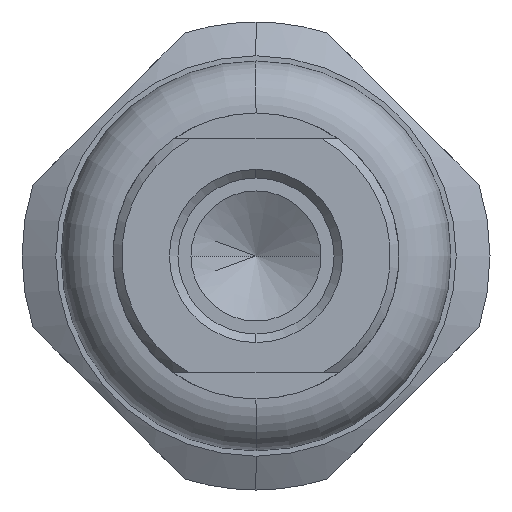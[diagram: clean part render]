
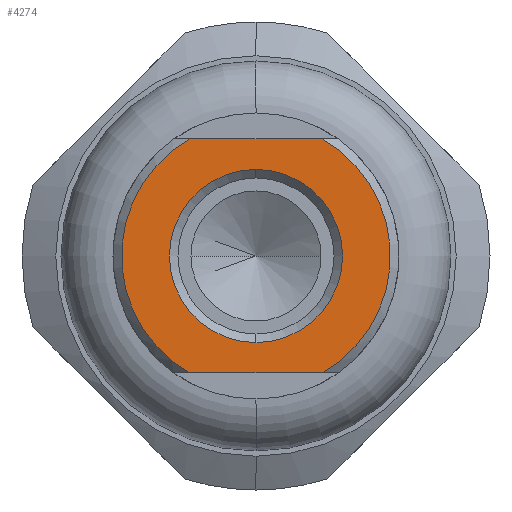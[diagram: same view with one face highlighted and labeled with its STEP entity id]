
A CAD part, left-side view. The second image highlights one B-rep face of the part: STEP entity #4274.
In plain terms, the highlighted planar face has unit normal (-1, 0, 0).
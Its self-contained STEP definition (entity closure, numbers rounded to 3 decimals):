
#1385 = CARTESIAN_POINT ( 'NONE',  ( -16.5, -2.545, -4.5 ) ) ;
#1525 = VERTEX_POINT ( 'NONE', #1385 ) ;
#2091 = CARTESIAN_POINT ( 'NONE',  ( -16.5, -2.545, 4.5 ) ) ;
#2144 = PLANE ( 'NONE',  #2147 ) ;
#2147 = AXIS2_PLACEMENT_3D ( 'NONE', #2270, #2269, #2267 ) ;
#2148 = FACE_OUTER_BOUND ( 'NONE', #4276, .T. ) ;
#2149 = FACE_BOUND ( 'NONE', #4275, .T. ) ;
#2164 = CARTESIAN_POINT ( 'NONE',  ( -16.5, 2.545, 4.5 ) ) ;
#2165 = DIRECTION ( 'NONE',  ( 0., -1., 0. ) ) ;
#2166 = VECTOR ( 'NONE', #2165, 1000. ) ;
#2167 = CARTESIAN_POINT ( 'NONE',  ( -16.5, -5.5, -4.5 ) ) ;
#2168 = LINE ( 'NONE', #2167, #2166 ) ;
#2174 = DIRECTION ( 'NONE',  ( 0., 1., 0. ) ) ;
#2175 = VECTOR ( 'NONE', #2174, 1000. ) ;
#2177 = CARTESIAN_POINT ( 'NONE',  ( -16.5, -5.5, 4.5 ) ) ;
#2178 = LINE ( 'NONE', #2177, #2175 ) ;
#2183 = CARTESIAN_POINT ( 'NONE',  ( -16.5, 2.545, -4.5 ) ) ;
#2185 = DIRECTION ( 'NONE',  ( 0., 0., 1. ) ) ;
#2187 = DIRECTION ( 'NONE',  ( -1., 0., 0. ) ) ;
#2189 = CARTESIAN_POINT ( 'NONE',  ( -16.5, 0., 0. ) ) ;
#2191 = AXIS2_PLACEMENT_3D ( 'NONE', #2189, #2187, #2185 ) ;
#2192 = CIRCLE ( 'NONE', #2191, 5.17 ) ;
#2241 = DIRECTION ( 'NONE',  ( 0., 0., 1. ) ) ;
#2242 = DIRECTION ( 'NONE',  ( 1., 0., 0. ) ) ;
#2244 = CARTESIAN_POINT ( 'NONE',  ( -16.5, 0., 0. ) ) ;
#2246 = AXIS2_PLACEMENT_3D ( 'NONE', #2244, #2242, #2241 ) ;
#2248 = CIRCLE ( 'NONE', #2246, 3.33 ) ;
#2267 = DIRECTION ( 'NONE',  ( 0., 0., 1. ) ) ;
#2269 = DIRECTION ( 'NONE',  ( -1., 0., 0. ) ) ;
#2270 = CARTESIAN_POINT ( 'NONE',  ( -16.5, 0., 0. ) ) ;
#2600 = CARTESIAN_POINT ( 'NONE',  ( -16.5, 0., 3.33 ) ) ;
#2729 = DIRECTION ( 'NONE',  ( 0., 0., 1. ) ) ;
#2730 = DIRECTION ( 'NONE',  ( 1., 0., 0. ) ) ;
#2731 = CARTESIAN_POINT ( 'NONE',  ( -16.5, 0., 0. ) ) ;
#2732 = AXIS2_PLACEMENT_3D ( 'NONE', #2731, #2730, #2729 ) ;
#2733 = CIRCLE ( 'NONE', #2732, 3.33 ) ;
#2737 = CARTESIAN_POINT ( 'NONE',  ( -16.5, 0., -3.33 ) ) ;
#3719 = DIRECTION ( 'NONE',  ( 0., 0., 1. ) ) ;
#3720 = DIRECTION ( 'NONE',  ( -1., 0., 0. ) ) ;
#3721 = CARTESIAN_POINT ( 'NONE',  ( -16.5, 0., 0. ) ) ;
#3722 = AXIS2_PLACEMENT_3D ( 'NONE', #3721, #3720, #3719 ) ;
#3723 = CIRCLE ( 'NONE', #3722, 5.17 ) ;
#4257 = ORIENTED_EDGE ( 'NONE', *, *, #4265, .T. ) ;
#4258 = VERTEX_POINT ( 'NONE', #2091 ) ;
#4260 = ORIENTED_EDGE ( 'NONE', *, *, #4262, .T. ) ;
#4262 = EDGE_CURVE ( 'NONE', #4266, #4263, #2192, .T. ) ;
#4263 = VERTEX_POINT ( 'NONE', #2183 ) ;
#4264 = EDGE_CURVE ( 'NONE', #4258, #4266, #2178, .T. ) ;
#4265 = EDGE_CURVE ( 'NONE', #4263, #1525, #2168, .T. ) ;
#4266 = VERTEX_POINT ( 'NONE', #2164 ) ;
#4270 = ORIENTED_EDGE ( 'NONE', *, *, #4281, .T. ) ;
#4274 = ADVANCED_FACE ( 'NONE', ( #2149, #2148 ), #2144, .T. ) ;
#4275 = EDGE_LOOP ( 'NONE', ( #4280, #4270 ) ) ;
#4276 = EDGE_LOOP ( 'NONE', ( #4278, #4260, #4257, #4931 ) ) ;
#4278 = ORIENTED_EDGE ( 'NONE', *, *, #4264, .T. ) ;
#4280 = ORIENTED_EDGE ( 'NONE', *, *, #4497, .T. ) ;
#4281 = EDGE_CURVE ( 'NONE', #4492, #4439, #2248, .T. ) ;
#4439 = VERTEX_POINT ( 'NONE', #2600 ) ;
#4492 = VERTEX_POINT ( 'NONE', #2737 ) ;
#4497 = EDGE_CURVE ( 'NONE', #4439, #4492, #2733, .T. ) ;
#4931 = ORIENTED_EDGE ( 'NONE', *, *, #4936, .T. ) ;
#4936 = EDGE_CURVE ( 'NONE', #1525, #4258, #3723, .T. ) ;
